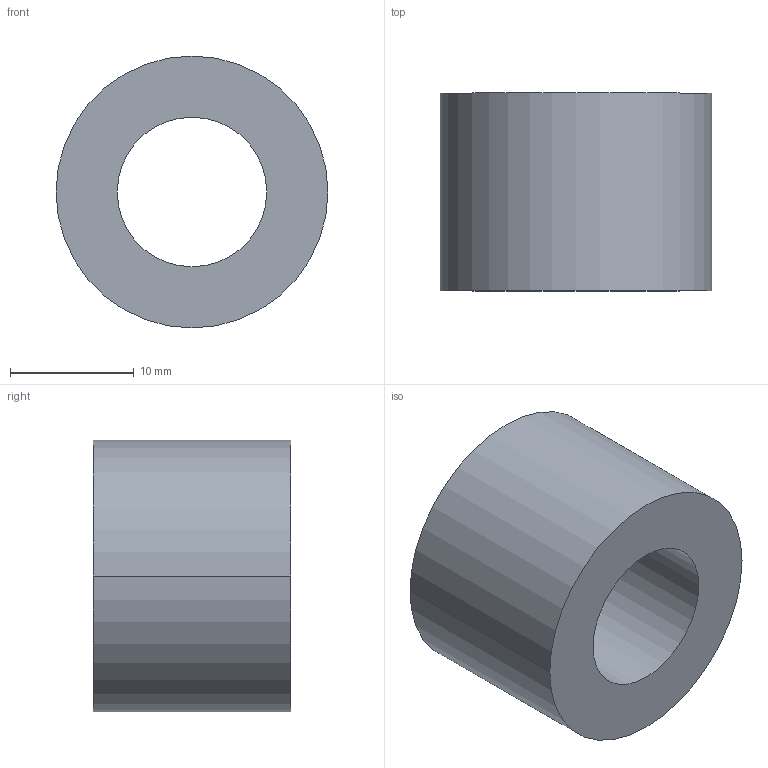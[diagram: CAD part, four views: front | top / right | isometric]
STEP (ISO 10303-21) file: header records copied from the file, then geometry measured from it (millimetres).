
FILE_DESCRIPTION (( 'STEP AP203' ), '1' );
FILE_NAME ('30800.WPP22F12.1.step', '2019-01-23T22:38:46', ( '' ), ( '' ), 'SwSTEP 2.0', 'SolidWorks 2017', '' );
FILE_SCHEMA (( 'CONFIG_CONTROL_DESIGN' ));
Length unit declared in the file: millimetre
Products named in the file (1): 30800.WPP22F12.1
Bounding box: 22 x 16 x 22 mm (x, y, z)
Volume: 4207.2 mm3; surface area: 2213.5 mm2
Topology: 1 solids, 1 shells, 8 faces, 16 edges, 10 vertices
Faces by surface type: cylinder 4, torus 2, plane 2
Entity records: 297 total; most frequent: DIRECTION 46, CARTESIAN_POINT 35, ORIENTED_EDGE 32, AXIS2_PLACEMENT_3D 21, EDGE_CURVE 16, CIRCLE 12, EDGE_LOOP 10, VERTEX_POINT 10
